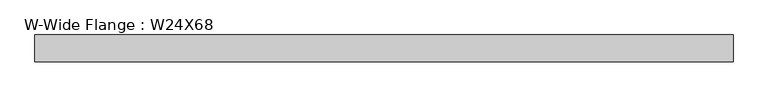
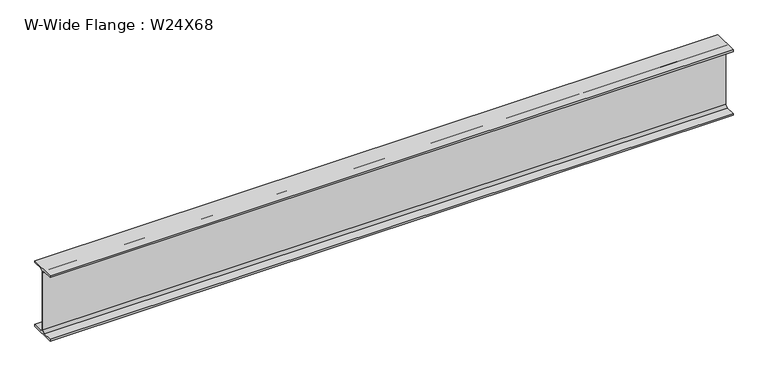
"""IFC4 building model written with IfcOpenShell, lengths in millimetres: beam geometry, W-Wide Flange : W24X68."""

from ifc_helpers import new_model, si_unit, point, frame, frame_2d, origin, place, context, project, spatial, polyline, circle_curve, trimmed, segment, composite_curve, outline, extrude, source, transform, mapped, element, save


def w_wide_flange_w24x68_6622e0e6(model_context):
    return source(origin(), model_context, "Body", "SweptSolid", [
        extrude(outline(composite_curve([segment(polyline([(113.919, -286.131), (113.919, -300.99), (-113.919, -300.99), (-113.919, -286.131), (-28.5115, -286.131)]), True, "CONTINUOUS"), segment(trimmed(circle_curve(frame_2d((-28.5115, -262.89)), 23.241), [point((-28.5115, -286.131))], [point((-5.2705, -262.89))], True, "CARTESIAN"), True, "CONTINUOUS"), segment(polyline([(-5.2705, -262.89), (-5.2705, 262.89)]), True, "CONTINUOUS"), segment(trimmed(circle_curve(frame_2d((-28.5115, 262.89)), 23.241), [point((-5.2705, 262.89))], [point((-28.5115, 286.131))], True, "CARTESIAN"), True, "CONTINUOUS"), segment(polyline([(-28.5115, 286.131), (-113.919, 286.131), (-113.919, 300.99), (113.919, 300.99), (113.919, 286.131), (28.5115, 286.131)]), True, "CONTINUOUS"), segment(trimmed(circle_curve(frame_2d((28.5115, 262.89)), 23.241), [point((28.5115, 286.131))], [point((5.2705, 262.89))], True, "CARTESIAN"), True, "CONTINUOUS"), segment(polyline([(5.2705, 262.89), (5.2705, -262.89)]), True, "CONTINUOUS"), segment(trimmed(circle_curve(frame_2d((28.5115, -262.89)), 23.241), [point((5.2705, -262.89))], [point((28.5115, -286.131))], True, "CARTESIAN"), True, "CONTINUOUS"), segment(polyline([(28.5115, -286.131), (113.919, -286.131)]), True, "CONTINUOUS")], self_intersect=False)), frame((-3055.14375, 0.0, 0.0), z_axis=(1.0, 0.0, 0.0), x_axis=(0.0, 1.0, 0.0)), (0.0, 0.0, 1.0), 5943.9175),
    ])


if __name__ == "__main__":
    model = new_model("IFC4")
    model_context = context("Model", 3, world=origin())
    ifc_project = project(units=[si_unit("LENGTHUNIT", "METRE", prefix="MILLI")], contexts=[model_context])
    site = spatial("IfcSite", under=ifc_project)
    building = spatial("IfcBuilding", under=site)
    placement = place(None, origin())
    w_wide_flange_w24x68_shape = w_wide_flange_w24x68_6622e0e6(model_context)
    element("IfcBeam", 1, ObjectType="W-Wide Flange : W24X68", at=placement, inside=building, context=model_context, shape_type="MappedRepresentation", body=[
        mapped(w_wide_flange_w24x68_shape, transform((0.0, 0.0, 0.0), x_axis=(1.0, 0.0, 0.0), y_axis=(0.0, 1.0, 0.0), z_axis=(0.0, 0.0, 1.0))),
    ])
    save(model, "model.ifc")
